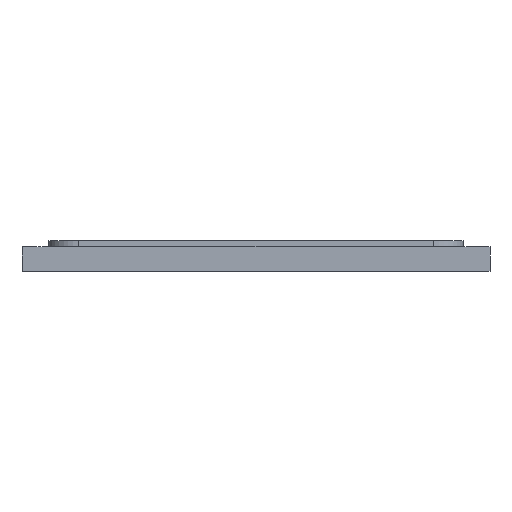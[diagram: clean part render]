
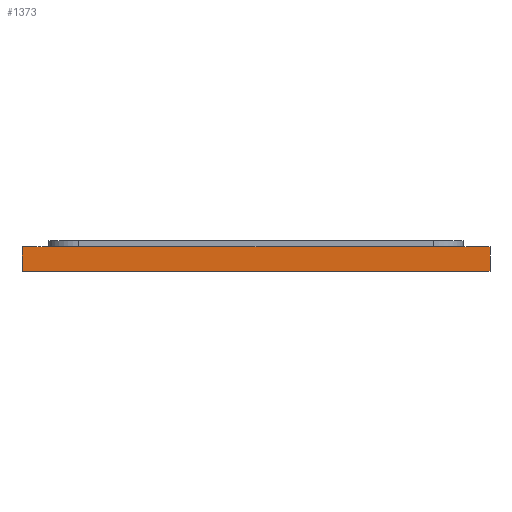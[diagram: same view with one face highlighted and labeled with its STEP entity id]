
A CAD part, front view. The second image highlights one B-rep face of the part: STEP entity #1373.
In plain terms, the highlighted planar face has unit normal (0, -1, 0).
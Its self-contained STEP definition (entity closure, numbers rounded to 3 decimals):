
#82 = LINE ( 'NONE', #92, #91 ) ;
#90 = DIRECTION ( 'NONE',  ( 1., 0., 0. ) ) ;
#91 = VECTOR ( 'NONE', #90, 1000. ) ;
#92 = CARTESIAN_POINT ( 'NONE',  ( -31., -40., -2. ) ) ;
#136 = CARTESIAN_POINT ( 'NONE',  ( 31., -40., -2. ) ) ;
#138 = DIRECTION ( 'NONE',  ( 0., 0., -1. ) ) ;
#139 = VECTOR ( 'NONE', #138, 1000. ) ;
#140 = CARTESIAN_POINT ( 'NONE',  ( -31., -40., 2. ) ) ;
#141 = LINE ( 'NONE', #140, #139 ) ;
#184 = CARTESIAN_POINT ( 'NONE',  ( 31., -40., 1.2 ) ) ;
#185 = CARTESIAN_POINT ( 'NONE',  ( -31., -40., 1.2 ) ) ;
#199 = CARTESIAN_POINT ( 'NONE',  ( -31., -40., -2. ) ) ;
#211 = AXIS2_PLACEMENT_3D ( 'NONE', #223, #222, #221 ) ;
#216 = PLANE ( 'NONE',  #211 ) ;
#217 = FACE_OUTER_BOUND ( 'NONE', #1363, .T. ) ;
#221 = DIRECTION ( 'NONE',  ( 0., 0., 1. ) ) ;
#222 = DIRECTION ( 'NONE',  ( 0., 1., 0. ) ) ;
#223 = CARTESIAN_POINT ( 'NONE',  ( -31., -40., 2. ) ) ;
#226 = DIRECTION ( 'NONE',  ( 0., 0., -1. ) ) ;
#227 = VECTOR ( 'NONE', #226, 1000. ) ;
#228 = CARTESIAN_POINT ( 'NONE',  ( 31., -40., 2. ) ) ;
#229 = LINE ( 'NONE', #228, #227 ) ;
#1154 = DIRECTION ( 'NONE',  ( 1., 0., 0. ) ) ;
#1155 = VECTOR ( 'NONE', #1154, 1000. ) ;
#1339 = EDGE_CURVE ( 'NONE', #1402, #1404, #2008, .T. ) ;
#1352 = ORIENTED_EDGE ( 'NONE', *, *, #1420, .T. ) ;
#1353 = EDGE_CURVE ( 'NONE', #1393, #1423, #82, .T. ) ;
#1363 = EDGE_LOOP ( 'NONE', ( #1374, #1352, #1403, #1371 ) ) ;
#1371 = ORIENTED_EDGE ( 'NONE', *, *, #1391, .F. ) ;
#1373 = ADVANCED_FACE ( 'NONE', ( #217 ), #216, .F. ) ;
#1374 = ORIENTED_EDGE ( 'NONE', *, *, #1339, .F. ) ;
#1391 = EDGE_CURVE ( 'NONE', #1404, #1423, #229, .T. ) ;
#1393 = VERTEX_POINT ( 'NONE', #199 ) ;
#1402 = VERTEX_POINT ( 'NONE', #185 ) ;
#1403 = ORIENTED_EDGE ( 'NONE', *, *, #1353, .T. ) ;
#1404 = VERTEX_POINT ( 'NONE', #184 ) ;
#1420 = EDGE_CURVE ( 'NONE', #1402, #1393, #141, .T. ) ;
#1423 = VERTEX_POINT ( 'NONE', #136 ) ;
#2003 = CARTESIAN_POINT ( 'NONE',  ( -31., -40., 1.2 ) ) ;
#2008 = LINE ( 'NONE', #2003, #1155 ) ;
